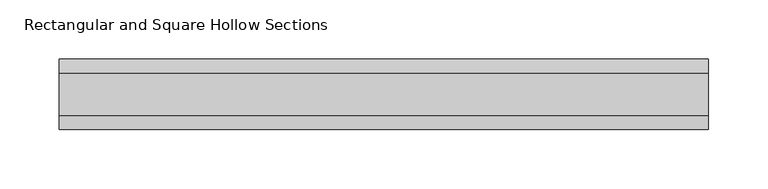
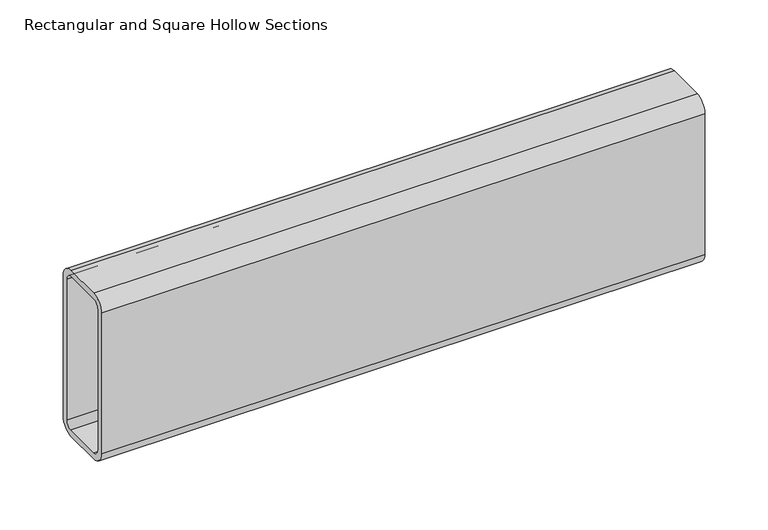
"""IFC4 building model written with IfcOpenShell, lengths in millimetres: beam geometry, Rectangular and Square Hollow Sections : TREC160x60x6."""

from ifc_helpers import new_model, si_unit, point, frame, frame_2d, origin, place, context, project, spatial, polyline, circle_curve, trimmed, segment, composite_curve, outline, extrude, source, transform, mapped, element, save


def rectangular_and_square_hollow_sections_bea938f4(model_context):
    return source(origin(), model_context, "Body", "SweptSolid", [
        extrude(outline(composite_curve([segment(polyline([(30.0, 68.0), (30.0, -68.0)]), True, "CONTINUOUS"), segment(trimmed(circle_curve(frame_2d((18.0, -68.0)), 12.0), [point((30.0, -68.0))], [point((18.0, -80.0))], False, "CARTESIAN"), True, "CONTINUOUS"), segment(polyline([(18.0, -80.0), (-18.0, -80.0)]), True, "CONTINUOUS"), segment(trimmed(circle_curve(frame_2d((-18.0, -68.0)), 12.0), [point((-18.0, -80.0))], [point((-30.0, -68.0))], False, "CARTESIAN"), True, "CONTINUOUS"), segment(polyline([(-30.0, -68.0), (-30.0, 68.0)]), True, "CONTINUOUS"), segment(trimmed(circle_curve(frame_2d((-18.0, 68.0)), 12.0), [point((-30.0, 68.0))], [point((-18.0, 80.0))], False, "CARTESIAN"), True, "CONTINUOUS"), segment(polyline([(-18.0, 80.0), (18.0, 80.0)]), True, "CONTINUOUS"), segment(trimmed(circle_curve(frame_2d((18.0, 68.0)), 12.0), [point((18.0, 80.0))], [point((30.0, 68.0))], False, "CARTESIAN"), True, "CONTINUOUS")], self_intersect=False), holes=[composite_curve([segment(trimmed(circle_curve(frame_2d((-18.0, 68.0)), 6.0), [point((-18.0, 74.0))], [point((-24.0, 68.0))], True, "CARTESIAN"), True, "CONTINUOUS"), segment(polyline([(-24.0, 68.0), (-24.0, -68.0)]), True, "CONTINUOUS"), segment(trimmed(circle_curve(frame_2d((-18.0, -68.0)), 6.0), [point((-24.0, -68.0))], [point((-18.0, -74.0))], True, "CARTESIAN"), True, "CONTINUOUS"), segment(polyline([(-18.0, -74.0), (18.0, -74.0)]), True, "CONTINUOUS"), segment(trimmed(circle_curve(frame_2d((18.0, -68.0)), 6.0), [point((18.0, -74.0))], [point((24.0, -68.0))], True, "CARTESIAN"), True, "CONTINUOUS"), segment(polyline([(24.0, -68.0), (24.0, 68.0)]), True, "CONTINUOUS"), segment(trimmed(circle_curve(frame_2d((18.0, 68.0)), 6.0), [point((24.0, 68.0))], [point((18.0, 74.0))], True, "CARTESIAN"), True, "CONTINUOUS"), segment(polyline([(18.0, 74.0), (-18.0, 74.0)]), True, "CONTINUOUS")], self_intersect=False)]), frame((-268.5, 0.0, 0.0), z_axis=(1.0, 0.0, 0.0), x_axis=(0.0, 1.0, 0.0)), (0.0, 0.0, 1.0), 550.0),
    ])


if __name__ == "__main__":
    model = new_model("IFC4")
    model_context = context("Model", 3, world=origin())
    ifc_project = project(units=[si_unit("LENGTHUNIT", "METRE", prefix="MILLI")], contexts=[model_context])
    site = spatial("IfcSite", under=ifc_project)
    building = spatial("IfcBuilding", under=site)
    placement = place(None, origin())
    rectangular_and_square_hollow_sections_shape = rectangular_and_square_hollow_sections_bea938f4(model_context)
    element("IfcBeam", 1, ObjectType="Rectangular and Square Hollow Sections : TREC160x60x6", at=placement, inside=building, context=model_context, shape_type="MappedRepresentation", body=[
        mapped(rectangular_and_square_hollow_sections_shape, transform((0.0, 0.0, 0.0), x_axis=(1.0, 0.0, 0.0), y_axis=(0.0, 1.0, 0.0), z_axis=(0.0, 0.0, 1.0))),
    ])
    save(model, "model.ifc")
